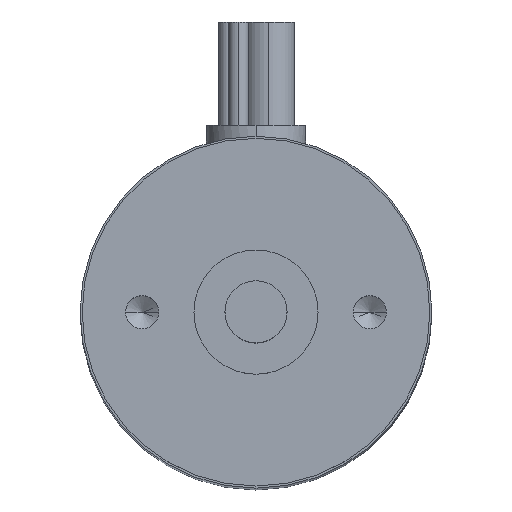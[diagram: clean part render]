
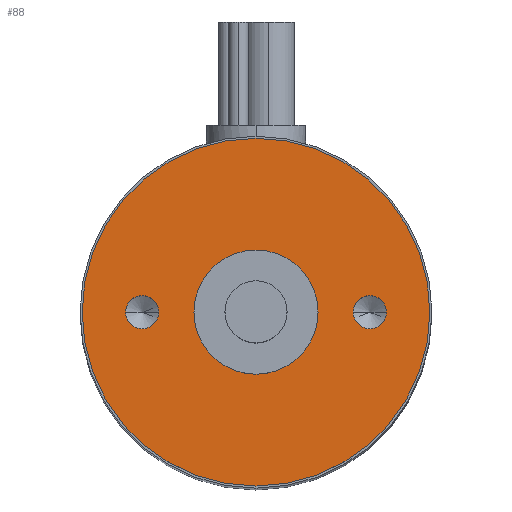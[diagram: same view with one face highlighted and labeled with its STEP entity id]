
A CAD part, top view. The second image highlights one B-rep face of the part: STEP entity #88.
In plain terms, the highlighted planar face has unit normal (0, 0, 1).
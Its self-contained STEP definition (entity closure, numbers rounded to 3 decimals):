
#5 = CARTESIAN_POINT ( 'NONE',  ( -5.5, 0., 0. ) ) ;
#32 = CARTESIAN_POINT ( 'NONE',  ( 0., 3., 0. ) ) ;
#54 = CIRCLE ( 'NONE', #904, 8.4 ) ;
#88 = ADVANCED_FACE ( 'NONE', ( #755, #441, #239, #148 ), #1255, .F. ) ;
#99 = CIRCLE ( 'NONE', #736, 3. ) ;
#105 = EDGE_CURVE ( 'NONE', #715, #787, #143, .T. ) ;
#123 = CARTESIAN_POINT ( 'NONE',  ( -5.5, 0., 0. ) ) ;
#124 = CARTESIAN_POINT ( 'NONE',  ( -4.7, 0., 0. ) ) ;
#141 = DIRECTION ( 'NONE',  ( 1., 0., 0. ) ) ;
#143 = CIRCLE ( 'NONE', #819, 0.8 ) ;
#148 = FACE_OUTER_BOUND ( 'NONE', #1125, .T. ) ;
#162 = EDGE_LOOP ( 'NONE', ( #251, #533 ) ) ;
#163 = CIRCLE ( 'NONE', #925, 0.8 ) ;
#175 = EDGE_CURVE ( 'NONE', #787, #715, #693, .T. ) ;
#204 = CARTESIAN_POINT ( 'NONE',  ( -8.4, 0., 0. ) ) ;
#207 = AXIS2_PLACEMENT_3D ( 'NONE', #947, #837, #141 ) ;
#208 = EDGE_CURVE ( 'NONE', #1082, #852, #54, .T. ) ;
#239 = FACE_BOUND ( 'NONE', #290, .T. ) ;
#251 = ORIENTED_EDGE ( 'NONE', *, *, #105, .F. ) ;
#271 = CIRCLE ( 'NONE', #976, 3. ) ;
#290 = EDGE_LOOP ( 'NONE', ( #898, #386 ) ) ;
#317 = DIRECTION ( 'NONE',  ( 1., 0., 0. ) ) ;
#339 = DIRECTION ( 'NONE',  ( 0., 0., -1. ) ) ;
#341 = EDGE_CURVE ( 'NONE', #886, #903, #412, .T. ) ;
#380 = EDGE_CURVE ( 'NONE', #903, #886, #163, .T. ) ;
#384 = VERTEX_POINT ( 'NONE', #638 ) ;
#386 = ORIENTED_EDGE ( 'NONE', *, *, #729, .F. ) ;
#393 = AXIS2_PLACEMENT_3D ( 'NONE', #32, #339, #1146 ) ;
#412 = CIRCLE ( 'NONE', #1161, 0.8 ) ;
#413 = DIRECTION ( 'NONE',  ( 1., 0., 0. ) ) ;
#441 = FACE_BOUND ( 'NONE', #162, .T. ) ;
#442 = CIRCLE ( 'NONE', #207, 8.4 ) ;
#451 = CARTESIAN_POINT ( 'NONE',  ( 5.5, 0., 0. ) ) ;
#523 = CARTESIAN_POINT ( 'NONE',  ( -6.3, 0., 0. ) ) ;
#533 = ORIENTED_EDGE ( 'NONE', *, *, #175, .F. ) ;
#537 = EDGE_CURVE ( 'NONE', #1022, #384, #271, .T. ) ;
#577 = CARTESIAN_POINT ( 'NONE',  ( 0., 0., 0. ) ) ;
#600 = DIRECTION ( 'NONE',  ( 0., 0., 1. ) ) ;
#631 = DIRECTION ( 'NONE',  ( 0., 0., 1. ) ) ;
#638 = CARTESIAN_POINT ( 'NONE',  ( -3., 0., 0. ) ) ;
#686 = ORIENTED_EDGE ( 'NONE', *, *, #913, .T. ) ;
#689 = DIRECTION ( 'NONE',  ( 1., 0., 0. ) ) ;
#693 = CIRCLE ( 'NONE', #1181, 0.8 ) ;
#695 = CARTESIAN_POINT ( 'NONE',  ( 5.5, 0., 0. ) ) ;
#708 = EDGE_LOOP ( 'NONE', ( #1191, #918 ) ) ;
#713 = DIRECTION ( 'NONE',  ( 0., 0., 1. ) ) ;
#715 = VERTEX_POINT ( 'NONE', #901 ) ;
#729 = EDGE_CURVE ( 'NONE', #384, #1022, #99, .T. ) ;
#736 = AXIS2_PLACEMENT_3D ( 'NONE', #1020, #713, #317 ) ;
#755 = FACE_BOUND ( 'NONE', #708, .T. ) ;
#787 = VERTEX_POINT ( 'NONE', #1215 ) ;
#807 = DIRECTION ( 'NONE',  ( 0., 0., 1. ) ) ;
#819 = AXIS2_PLACEMENT_3D ( 'NONE', #451, #854, #1167 ) ;
#837 = DIRECTION ( 'NONE',  ( 0., 0., 1. ) ) ;
#852 = VERTEX_POINT ( 'NONE', #934 ) ;
#854 = DIRECTION ( 'NONE',  ( 0., 0., 1. ) ) ;
#886 = VERTEX_POINT ( 'NONE', #523 ) ;
#898 = ORIENTED_EDGE ( 'NONE', *, *, #537, .F. ) ;
#901 = CARTESIAN_POINT ( 'NONE',  ( 6.3, 0., 0. ) ) ;
#903 = VERTEX_POINT ( 'NONE', #124 ) ;
#904 = AXIS2_PLACEMENT_3D ( 'NONE', #1219, #807, #689 ) ;
#913 = EDGE_CURVE ( 'NONE', #852, #1082, #442, .T. ) ;
#918 = ORIENTED_EDGE ( 'NONE', *, *, #341, .F. ) ;
#925 = AXIS2_PLACEMENT_3D ( 'NONE', #123, #1141, #942 ) ;
#934 = CARTESIAN_POINT ( 'NONE',  ( 8.4, 0., 0. ) ) ;
#942 = DIRECTION ( 'NONE',  ( 1., 0., 0. ) ) ;
#945 = ORIENTED_EDGE ( 'NONE', *, *, #208, .T. ) ;
#947 = CARTESIAN_POINT ( 'NONE',  ( 0., 0., 0. ) ) ;
#976 = AXIS2_PLACEMENT_3D ( 'NONE', #577, #1271, #1066 ) ;
#1020 = CARTESIAN_POINT ( 'NONE',  ( 0., 0., 0. ) ) ;
#1022 = VERTEX_POINT ( 'NONE', #1272 ) ;
#1066 = DIRECTION ( 'NONE',  ( 1., 0., 0. ) ) ;
#1082 = VERTEX_POINT ( 'NONE', #204 ) ;
#1125 = EDGE_LOOP ( 'NONE', ( #686, #945 ) ) ;
#1141 = DIRECTION ( 'NONE',  ( 0., 0., 1. ) ) ;
#1146 = DIRECTION ( 'NONE',  ( -1., 0., 0. ) ) ;
#1161 = AXIS2_PLACEMENT_3D ( 'NONE', #5, #631, #413 ) ;
#1167 = DIRECTION ( 'NONE',  ( 1., 0., 0. ) ) ;
#1181 = AXIS2_PLACEMENT_3D ( 'NONE', #695, #600, #1311 ) ;
#1191 = ORIENTED_EDGE ( 'NONE', *, *, #380, .F. ) ;
#1215 = CARTESIAN_POINT ( 'NONE',  ( 4.7, 0., 0. ) ) ;
#1219 = CARTESIAN_POINT ( 'NONE',  ( 0., 0., 0. ) ) ;
#1255 = PLANE ( 'NONE',  #393 ) ;
#1271 = DIRECTION ( 'NONE',  ( 0., 0., 1. ) ) ;
#1272 = CARTESIAN_POINT ( 'NONE',  ( 3., 0., 0. ) ) ;
#1311 = DIRECTION ( 'NONE',  ( 1., 0., 0. ) ) ;
